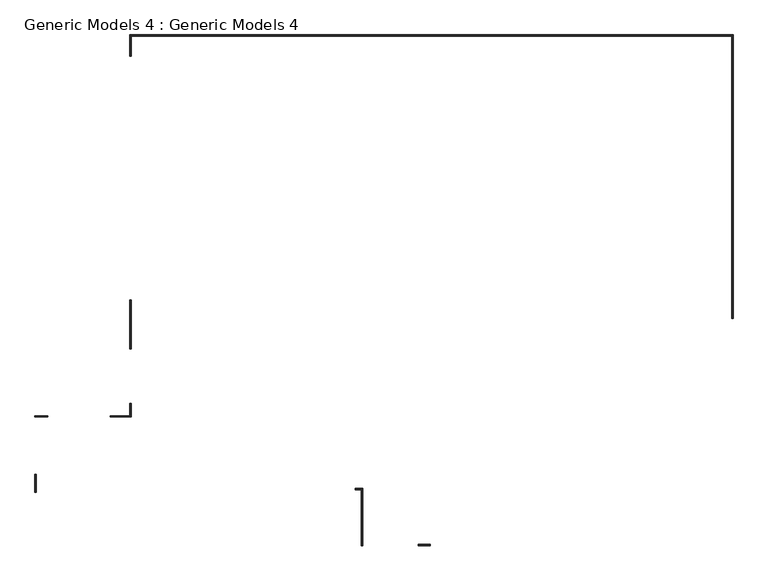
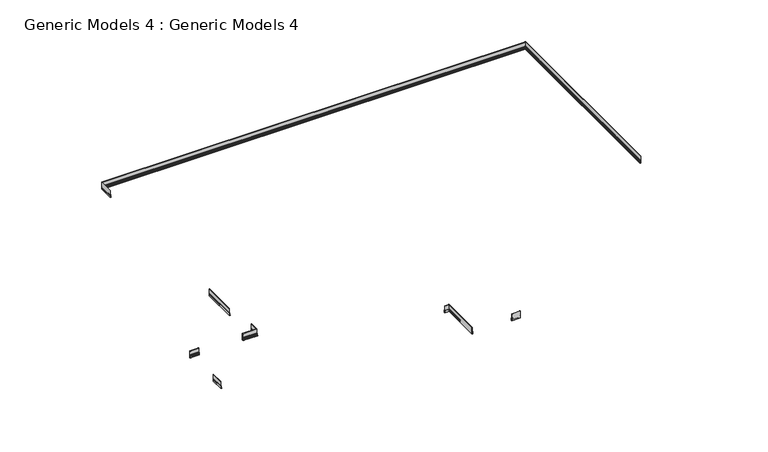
"""IFC4 building model written with IfcOpenShell, lengths in millimetres: proxy geometry, Generic Models 4 : Generic Models 4."""

from ifc_helpers import new_model, si_unit, point, frame, frame_2d, origin, place, context, project, spatial, polyline, circle_curve, ellipse_curve, trimmed, segment, composite_curve, outline, extrude, source, transform, mapped, element, save
from ifc_brep_helpers import plane_surface, cylinder_surface, revolved_surface, advanced_brep


def generic_models_4_generic_models_4_03122b29(model_context):
    return source(origin(), model_context, "Body", "SolidModel", [
        advanced_brep(
        [(-6474.8250642, 4649.3293876, 0.0), (-6474.8250642, 4649.3293876, -150.0), (-6459.8250642, 4649.3293876, -150.0), (-6459.8250642, 4649.3293876, -142.0576757), (-6459.8250642, 4649.3293876, -133.125), (-6459.8250642, 4649.3293876, -125.1826757), (-6459.8250642, 4649.3293876, -111.5846818), (-6459.8250642, 4649.3293876, -103.6423575), (-6459.8250642, 4649.3293876, -95.0), (-6464.8250642, 4649.3293876, -95.0), (-6469.8250642, 4649.3293876, -90.0), (-6469.8250642, 4649.3293876, -7.1706867), (2263.8919816, 841.2824486, 0.0), (2258.8919816, 841.2824486, -7.1706867), (2258.8919816, 841.2824486, -90.0), (2253.8919816, 841.2824486, -95.0), (2248.8919816, 841.2824486, -95.0), (2248.8919816, 841.2824486, -103.6423575), (2248.8919816, 841.2824486, -111.5846818), (2248.8919816, 841.2824486, -125.1826757), (2248.8919816, 841.2824486, -133.125), (2248.8919816, 841.2824486, -142.0576757), (2248.8919816, 841.2824486, -150.0), (2263.8919816, 841.2824486, -150.0), (2263.8919816, 4955.5879527, -150.0), (2263.8919816, 4955.5879527, 0.0), (2248.8919816, 4940.5879527, -142.0576757), (2248.8919816, 4940.5879527, -150.0), (2248.8919816, 4940.5879527, -133.125), (2248.8919816, 4940.5879527, -125.1826757), (2248.8919816, 4940.5879527, -111.5846818), (2248.8919816, 4940.5879527, -103.6423575), (2248.8919816, 4940.5879527, -95.0), (2258.8919816, 4950.5879527, -90.0), (2253.8919816, 4945.5879527, -95.0), (2258.8919816, 4950.5879527, -7.1706867), (-6474.8250642, 4955.5879527, 0.0), (-6474.8250642, 4955.5879527, -150.0), (-6459.8250642, 4940.5879527, -150.0), (-6459.8250642, 4940.5879527, -142.0576757), (-6459.8250642, 4940.5879527, -133.125), (-6459.8250642, 4940.5879527, -125.1826757), (-6459.8250642, 4940.5879527, -111.5846818), (-6459.8250642, 4940.5879527, -103.6423575), (-6459.8250642, 4940.5879527, -95.0), (-6464.8250642, 4945.5879527, -95.0), (-6469.8250642, 4950.5879527, -90.0), (-6469.8250642, 4950.5879527, -7.1706867)],
        [
            (0, 1),
            (1, 2),
            (2, 3, circle_curve(frame((-6459.8250642, 4649.3293876, -146.0288379), z_axis=(0.0, -1.0, 0.0), x_axis=(1.0, 0.0, 0.0)), 3.9711621)),
            (3, 4),
            (4, 5, circle_curve(frame((-6459.8250642, 4649.3293876, -129.1538379), z_axis=(0.0, 1.0, 0.0), x_axis=(-1.0, 0.0, 0.0)), 3.9711621)),
            (5, 6),
            (6, 7, circle_curve(frame((-6459.8250642, 4649.3293876, -107.6135197), z_axis=(0.0, 1.0, 0.0), x_axis=(-1.0, 0.0, 0.0)), 3.9711621)),
            (7, 8),
            (8, 9),
            (9, 10, circle_curve(frame((-6464.8250642, 4649.3293876, -90.0), z_axis=(0.0, 1.0, 0.0), x_axis=(1.0, 0.0, 0.0)), 5.0)),
            (10, 11),
            (11, 0, circle_curve(frame((-6477.4669391, 4649.3293876, -7.1706867), z_axis=(0.0, -1.0, 0.0), x_axis=(1.0, 0.0, 0.0)), 7.6418748)),
            (12, 13, circle_curve(frame((2266.5338564, 841.2824486, -7.1706867), z_axis=(0.0, -1.0, 0.0), x_axis=(-1.0, 0.0, 0.0)), 7.6418748)),
            (13, 14),
            (14, 15, circle_curve(frame((2253.8919816, 841.2824486, -90.0), z_axis=(0.0, 1.0, 0.0), x_axis=(-1.0, 0.0, 0.0)), 5.0)),
            (15, 16),
            (16, 17),
            (17, 18, circle_curve(frame((2248.8919816, 841.2824486, -107.6135197), z_axis=(0.0, 1.0, 0.0), x_axis=(1.0, 0.0, 0.0)), 3.9711621)),
            (18, 19),
            (19, 20, circle_curve(frame((2248.8919816, 841.2824486, -129.1538379), z_axis=(0.0, 1.0, 0.0), x_axis=(1.0, 0.0, 0.0)), 3.9711621)),
            (20, 21),
            (21, 22, circle_curve(frame((2248.8919816, 841.2824486, -146.0288379), z_axis=(0.0, -1.0, 0.0), x_axis=(-1.0, 0.0, 0.0)), 3.9711621)),
            (22, 23),
            (23, 12),
            (24, 25),
            (25, 12),
            (23, 24),
            (26, 27, ellipse_curve(frame((2248.8919816, 4940.5879527, -146.0288379), z_axis=(0.7071067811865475, -0.7071067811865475, 0.0), x_axis=(0.7071067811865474, 0.7071067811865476, 0.0)), 5.6160713, 3.9711621)),
            (27, 22),
            (21, 26),
            (28, 26),
            (20, 28),
            (29, 28, ellipse_curve(frame((2248.8919816, 4940.5879527, -129.1538379), z_axis=(-0.7071067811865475, 0.7071067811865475, 0.0), x_axis=(-0.7071067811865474, -0.7071067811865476, 0.0)), 5.6160713, 3.9711621)),
            (19, 29),
            (30, 29),
            (18, 30),
            (31, 30, ellipse_curve(frame((2248.8919816, 4940.5879527, -107.6135197), z_axis=(-0.7071067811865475, 0.7071067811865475, 0.0), x_axis=(-0.7071067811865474, -0.7071067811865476, 0.0)), 5.6160713, 3.9711621)),
            (17, 31),
            (32, 31),
            (16, 32),
            (33, 34, ellipse_curve(frame((2253.8919816, 4945.5879527, -90.0), z_axis=(-0.7071067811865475, 0.7071067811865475, 0.0), x_axis=(-0.7071067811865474, -0.7071067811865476, 0.0)), 7.0710678, 5.0)),
            (34, 15),
            (14, 33),
            (35, 33),
            (13, 35),
            (25, 35, ellipse_curve(frame((2266.5338564, 4958.2298276, -7.1706867), z_axis=(0.7071067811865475, -0.7071067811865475, 0.0), x_axis=(0.7071067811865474, 0.7071067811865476, 0.0)), 10.807243, 7.6418748)),
            (0, 36),
            (36, 37),
            (37, 1),
            (37, 24),
            (27, 38),
            (38, 2),
            (38, 39, ellipse_curve(frame((-6459.8250642, 4940.5879527, -146.0288379), z_axis=(-0.7071067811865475, -0.7071067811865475, 0.0), x_axis=(0.7071067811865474, -0.7071067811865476, 0.0)), 5.6160713, 3.9711621)),
            (39, 3),
            (39, 40),
            (40, 4),
            (40, 41, ellipse_curve(frame((-6459.8250642, 4940.5879527, -129.1538379), z_axis=(0.7071067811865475, 0.7071067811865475, 0.0), x_axis=(-0.7071067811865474, 0.7071067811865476, 0.0)), 5.6160713, 3.9711621)),
            (41, 5),
            (41, 42),
            (42, 6),
            (42, 43, ellipse_curve(frame((-6459.8250642, 4940.5879527, -107.6135197), z_axis=(0.7071067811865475, 0.7071067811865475, 0.0), x_axis=(-0.7071067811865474, 0.7071067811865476, 0.0)), 5.6160713, 3.9711621)),
            (43, 7),
            (43, 44),
            (44, 8),
            (44, 32),
            (34, 45),
            (45, 9),
            (45, 46, ellipse_curve(frame((-6464.8250642, 4945.5879527, -90.0), z_axis=(0.7071067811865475, 0.7071067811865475, 0.0), x_axis=(-0.7071067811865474, 0.7071067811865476, 0.0)), 7.0710678, 5.0)),
            (46, 10),
            (46, 47),
            (47, 11),
            (47, 36, ellipse_curve(frame((-6477.4669391, 4958.2298276, -7.1706867), z_axis=(-0.7071067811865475, -0.7071067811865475, 0.0), x_axis=(0.7071067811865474, -0.7071067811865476, 0.0)), 10.807243, 7.6418748)),
            (36, 25),
            (26, 39),
            (28, 40),
            (29, 41),
            (30, 42),
            (31, 43),
            (33, 46),
            (35, 47),
        ],
        [
            plane_surface(frame((-6474.8250642, 4649.3293876, -150.0), z_axis=(0.0, -1.0, 0.0), x_axis=(0.0, 0.0, -1.0))),
            plane_surface(frame((2263.8919816, 841.2824486, -150.0), z_axis=(0.0, -1.0, 0.0), x_axis=(0.0, 0.0, -1.0))),
            plane_surface(frame((2263.8919816, 4955.5879527, 0.0), z_axis=(1.0, 0.0, 0.0), x_axis=(0.0, -1.0, 0.0))),
            cylinder_surface(frame((2248.8919816, 4955.5879527, -146.0288379), z_axis=(0.0, 1.0, 0.0), x_axis=(-1.0, 0.0, 0.0)), 3.9711621),
            plane_surface(frame((2248.8919816, 4940.5879527, -142.0576757), z_axis=(-1.0, 0.0, 0.0), x_axis=(0.0, -1.0, 0.0))),
            revolved_surface(polyline([(2252.8631437, 841.2824486, -129.1538379), (2252.8631437, 4944.559114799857, -129.1538379)]), (2248.8919816, 4955.5879527, -129.1538379), (0.0, -1.0, 0.0)),
            plane_surface(frame((2248.8919816, 4940.5879527, -125.1826757), z_axis=(-1.0, 0.0, 0.0), x_axis=(0.0, -1.0, 0.0))),
            revolved_surface(polyline([(2252.8631437, 841.2824486, -107.6135197), (2252.8631437, 4944.559114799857, -107.6135197)]), (2248.8919816, 4955.5879527, -107.6135197), (0.0, -1.0, 0.0)),
            plane_surface(frame((2248.8919816, 4940.5879527, -103.6423575), z_axis=(-1.0, 0.0, 0.0), x_axis=(0.0, -1.0, 0.0))),
            revolved_surface(polyline([(2248.8919816, 841.2824486, -90.0), (2248.8919816, 4950.5879527, -90.0)]), (2253.8919816, 4955.5879527, -90.0), (0.0, -1.0, 0.0)),
            plane_surface(frame((2258.8919816, 4950.5879527, -90.0), z_axis=(-1.0, 0.0, 0.0), x_axis=(0.0, -1.0, 0.0))),
            cylinder_surface(frame((2266.5338564, 4955.5879527, -7.1706867), z_axis=(0.0, 1.0, 0.0), x_axis=(-1.0, 0.0, 0.0)), 7.6418748),
            plane_surface(frame((-6474.8250642, 4649.3293876, 0.0), z_axis=(-1.0, 0.0, 0.0), x_axis=(0.0, 1.0, 0.0))),
            plane_surface(frame((-6474.8250642, 4649.3293876, -150.0), z_axis=(0.0, 0.0, -1.0), x_axis=(0.0, 1.0, 0.0))),
            cylinder_surface(frame((-6459.8250642, 4649.3293876, -146.0288379), z_axis=(0.0, -1.0, 0.0), x_axis=(1.0, 0.0, 0.0)), 3.9711621),
            plane_surface(frame((-6459.8250642, 4649.3293876, -142.0576757), z_axis=(1.0, 0.0, 0.0), x_axis=(0.0, 1.0, 0.0))),
            revolved_surface(polyline([(-6463.7962263, 4944.559114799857, -129.1538379), (-6463.7962263, 4649.3293876, -129.1538379)]), (-6459.8250642, 4649.3293876, -129.1538379), (0.0, 1.0, 0.0)),
            plane_surface(frame((-6459.8250642, 4649.3293876, -125.1826757), z_axis=(1.0, 0.0, 0.0), x_axis=(0.0, 1.0, 0.0))),
            revolved_surface(polyline([(-6463.7962263, 4944.559114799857, -107.6135197), (-6463.7962263, 4649.3293876, -107.6135197)]), (-6459.8250642, 4649.3293876, -107.6135197), (0.0, 1.0, 0.0)),
            plane_surface(frame((-6459.8250642, 4649.3293876, -103.6423575), z_axis=(1.0, 0.0, 0.0), x_axis=(0.0, 1.0, 0.0))),
            plane_surface(frame((-6459.8250642, 4649.3293876, -95.0), z_axis=(0.0, 0.0, 1.0), x_axis=(0.0, 1.0, 0.0))),
            revolved_surface(polyline([(-6459.8250642, 4950.5879527, -90.0), (-6459.8250642, 4649.3293876, -90.0)]), (-6464.8250642, 4649.3293876, -90.0), (0.0, 1.0, 0.0)),
            plane_surface(frame((-6469.8250642, 4649.3293876, -90.0), z_axis=(1.0, 0.0, 0.0), x_axis=(0.0, 1.0, 0.0))),
            cylinder_surface(frame((-6477.4669391, 4649.3293876, -7.1706867), z_axis=(0.0, -1.0, 0.0), x_axis=(1.0, 0.0, 0.0)), 7.6418748),
            plane_surface(frame((-6474.8250642, 4955.5879527, 0.0), z_axis=(0.0, 1.0, 0.0), x_axis=(1.0, 0.0, 0.0))),
            cylinder_surface(frame((-6474.8250642, 4940.5879527, -146.0288379), z_axis=(-1.0, 0.0, 0.0), x_axis=(0.0, -1.0, 0.0)), 3.9711621),
            plane_surface(frame((-6459.8250642, 4940.5879527, -142.0576757), z_axis=(0.0, -1.0, 0.0), x_axis=(1.0, 0.0, 0.0))),
            revolved_surface(polyline([(2252.8631436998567, 4944.559114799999, -129.1538379), (-6463.796226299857, 4944.559114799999, -129.1538379)]), (-6474.8250642, 4940.5879527, -129.1538379), (1.0, 0.0, 0.0)),
            plane_surface(frame((-6459.8250642, 4940.5879527, -125.1826757), z_axis=(0.0, -1.0, 0.0), x_axis=(1.0, 0.0, 0.0))),
            revolved_surface(polyline([(2252.8631436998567, 4944.559114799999, -107.6135197), (-6463.796226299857, 4944.559114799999, -107.6135197)]), (-6474.8250642, 4940.5879527, -107.6135197), (1.0, 0.0, 0.0)),
            plane_surface(frame((-6459.8250642, 4940.5879527, -103.6423575), z_axis=(0.0, -1.0, 0.0), x_axis=(1.0, 0.0, 0.0))),
            revolved_surface(polyline([(2258.8919816, 4940.5879527, -90.0), (-6469.8250642, 4940.5879527, -90.0)]), (-6474.8250642, 4945.5879527, -90.0), (1.0, 0.0, 0.0)),
            plane_surface(frame((-6469.8250642, 4950.5879527, -90.0), z_axis=(0.0, -1.0, 0.0), x_axis=(1.0, 0.0, 0.0))),
            cylinder_surface(frame((-6474.8250642, 4958.2298276, -7.1706867), z_axis=(-1.0, 0.0, 0.0), x_axis=(0.0, -1.0, 0.0)), 7.6418748),
        ],
        [
            (0, [[1, 2, 3, 4, 5, 6, 7, 8, 9, 10, 11, 12]]),
            (1, [[13, 14, 15, 16, 17, 18, 19, 20, 21, 22, 23, 24]]),
            (2, [[25, 26, -24, 27]]),
            (3, [[28, 29, -22, 30]]),
            (4, [[31, -30, -21, 32]]),
            (5, [[33, -32, -20, 34]]),
            (6, [[35, -34, -19, 36]]),
            (7, [[37, -36, -18, 38]]),
            (8, [[39, -38, -17, 40]]),
            (9, [[41, 42, -15, 43]]),
            (10, [[44, -43, -14, 45]]),
            (11, [[46, -45, -13, -26]]),
            (12, [[-1, 47, 48, 49]]),
            (13, [[-2, -49, 50, -27, -23, -29, 51, 52]]),
            (14, [[-3, -52, 53, 54]]),
            (15, [[-4, -54, 55, 56]]),
            (16, [[-5, -56, 57, 58]]),
            (17, [[-6, -58, 59, 60]]),
            (18, [[-7, -60, 61, 62]]),
            (19, [[-8, -62, 63, 64]]),
            (20, [[-9, -64, 65, -40, -16, -42, 66, 67]]),
            (21, [[-10, -67, 68, 69]]),
            (22, [[-11, -69, 70, 71]]),
            (23, [[-12, -71, 72, -47]]),
            (24, [[-48, 73, -25, -50]]),
            (25, [[-53, -51, -28, 74]]),
            (26, [[-55, -74, -31, 75]]),
            (27, [[-57, -75, -33, 76]]),
            (28, [[-59, -76, -35, 77]]),
            (29, [[-61, -77, -37, 78]]),
            (30, [[-63, -78, -39, -65]]),
            (31, [[-68, -66, -41, 79]]),
            (32, [[-70, -79, -44, 80]]),
            (33, [[-72, -80, -46, -73]]),
        ],
    ),
        extrude(outline(composite_curve([segment(polyline([(150.0, -7848.5491004), (0.0, -7848.5491004), (0.0, -7833.5491004)]), True, "CONTINUOUS"), segment(trimmed(circle_curve(frame_2d((3.9711621, -7833.5491004)), 3.9711621), [point((0.0, -7833.5491004))], [point((7.9423243, -7833.5491004))], False, "CARTESIAN"), True, "CONTINUOUS"), segment(polyline([(7.9423243, -7833.5491004), (16.875, -7833.5491004)]), True, "CONTINUOUS"), segment(trimmed(circle_curve(frame_2d((20.8461621, -7833.5491004)), 3.9711621), [point((16.875, -7833.5491004))], [point((24.8173243, -7833.5491004))], True, "CARTESIAN"), True, "CONTINUOUS"), segment(polyline([(24.8173243, -7833.5491004), (38.4153182, -7833.5491004)]), True, "CONTINUOUS"), segment(trimmed(circle_curve(frame_2d((42.3864803, -7833.5491004)), 3.9711621), [point((38.4153182, -7833.5491004))], [point((46.3576425, -7833.5491004))], True, "CARTESIAN"), True, "CONTINUOUS"), segment(polyline([(46.3576425, -7833.5491004), (55.0, -7833.5491004), (55.0, -7838.5491004)]), True, "CONTINUOUS"), segment(trimmed(circle_curve(frame_2d((60.0, -7838.5491004)), 5.0), [point((55.0, -7838.5491004))], [point((60.0, -7843.5491004))], True, "CARTESIAN"), True, "CONTINUOUS"), segment(polyline([(60.0, -7843.5491004), (142.8293133, -7843.5491004)]), True, "CONTINUOUS"), segment(trimmed(circle_curve(frame_2d((142.8293133, -7851.1909752)), 7.6418748), [point((142.8293133, -7843.5491004))], [point((150.0, -7848.5491004))], False, "CARTESIAN"), True, "CONTINUOUS")], self_intersect=False)), frame((0.0, -1675.4749322, 0.0), z_axis=(0.0, 1.0, 0.0), x_axis=(0.0, 0.0, 1.0)), (0.0, 0.0, 1.0), 263.0759475),
        extrude(outline(composite_curve([segment(polyline([(-566.5989847, 150.0), (-566.5989847, 0.0), (-581.5989847, 0.0)]), True, "CONTINUOUS"), segment(trimmed(circle_curve(frame_2d((-581.5989847, 3.9711621)), 3.9711621), [point((-581.5989847, 0.0))], [point((-581.5989847, 7.9423243))], False, "CARTESIAN"), True, "CONTINUOUS"), segment(polyline([(-581.5989847, 7.9423243), (-581.5989847, 16.875)]), True, "CONTINUOUS"), segment(trimmed(circle_curve(frame_2d((-581.5989847, 20.8461621)), 3.9711621), [point((-581.5989847, 16.875))], [point((-581.5989847, 24.8173243))], True, "CARTESIAN"), True, "CONTINUOUS"), segment(polyline([(-581.5989847, 24.8173243), (-581.5989847, 38.4153182)]), True, "CONTINUOUS"), segment(trimmed(circle_curve(frame_2d((-581.5989847, 42.3864803)), 3.9711621), [point((-581.5989847, 38.4153182))], [point((-581.5989847, 46.3576425))], True, "CARTESIAN"), True, "CONTINUOUS"), segment(polyline([(-581.5989847, 46.3576425), (-581.5989847, 55.0), (-576.5989847, 55.0)]), True, "CONTINUOUS"), segment(trimmed(circle_curve(frame_2d((-576.5989847, 60.0)), 5.0), [point((-576.5989847, 55.0))], [point((-571.5989847, 60.0))], True, "CARTESIAN"), True, "CONTINUOUS"), segment(polyline([(-571.5989847, 60.0), (-571.5989847, 142.8293133)]), True, "CONTINUOUS"), segment(trimmed(circle_curve(frame_2d((-563.9571098, 142.8293133)), 7.6418748), [point((-571.5989847, 142.8293133))], [point((-566.5989847, 150.0))], False, "CARTESIAN"), True, "CONTINUOUS")], self_intersect=False)), frame((-7848.5491004, 0.0, 0.0), z_axis=(1.0, 0.0, 0.0), x_axis=(0.0, 1.0, 0.0)), (0.0, 0.0, 1.0), 187.9240362),
        advanced_brep(
        [(-6474.8250642, -390.1019684, 150.0), (-6469.8250642, -390.1019684, 142.8293133), (-6469.8250642, -390.1019684, 60.0), (-6464.8250642, -390.1019684, 55.0), (-6459.8250642, -390.1019684, 55.0), (-6459.8250642, -390.1019684, 46.3576425), (-6459.8250642, -390.1019684, 38.4153182), (-6459.8250642, -390.1019684, 24.8173243), (-6459.8250642, -390.1019684, 16.875), (-6459.8250642, -390.1019684, 7.9423243), (-6459.8250642, -390.1019684, 0.0), (-6474.8250642, -390.1019684, 0.0), (-6759.0250642, -566.5989847, 150.0), (-6759.0250642, -566.5989847, 0.0), (-6759.0250642, -581.5989847, 0.0), (-6759.0250642, -581.5989847, 7.9423243), (-6759.0250642, -581.5989847, 16.875), (-6759.0250642, -581.5989847, 24.8173243), (-6759.0250642, -581.5989847, 38.4153182), (-6759.0250642, -581.5989847, 46.3576425), (-6759.0250642, -581.5989847, 55.0), (-6759.0250642, -576.5989847, 55.0), (-6759.0250642, -571.5989847, 60.0), (-6759.0250642, -571.5989847, 142.8293133), (-6474.8250642, -566.5989847, 150.0), (-6469.8250642, -571.5989847, 142.8293133), (-6469.8250642, -571.5989847, 60.0), (-6464.8250642, -576.5989847, 55.0), (-6459.8250642, -581.5989847, 55.0), (-6459.8250642, -581.5989847, 46.3576425), (-6459.8250642, -581.5989847, 38.4153182), (-6459.8250642, -581.5989847, 24.8173243), (-6459.8250642, -581.5989847, 16.875), (-6459.8250642, -581.5989847, 7.9423243), (-6459.8250642, -581.5989847, 0.0), (-6474.8250642, -566.5989847, 0.0)],
        [
            (0, 1, circle_curve(frame((-6477.4669391, -390.1019684, 142.8293133), z_axis=(0.0, 1.0, 0.0), x_axis=(1.0, 0.0, 0.0)), 7.6418748)),
            (1, 2),
            (2, 3, circle_curve(frame((-6464.8250642, -390.1019684, 60.0), z_axis=(0.0, -1.0, 0.0), x_axis=(1.0, 0.0, 0.0)), 5.0)),
            (3, 4),
            (4, 5),
            (5, 6, circle_curve(frame((-6459.8250642, -390.1019684, 42.3864803), z_axis=(0.0, -1.0, 0.0), x_axis=(-1.0, 0.0, 0.0)), 3.9711621)),
            (6, 7),
            (7, 8, circle_curve(frame((-6459.8250642, -390.1019684, 20.8461621), z_axis=(0.0, -1.0, 0.0), x_axis=(-1.0, 0.0, 0.0)), 3.9711621)),
            (8, 9),
            (9, 10, circle_curve(frame((-6459.8250642, -390.1019684, 3.9711621), z_axis=(0.0, 1.0, 0.0), x_axis=(1.0, 0.0, 0.0)), 3.9711621)),
            (10, 11),
            (11, 0),
            (12, 13),
            (13, 14),
            (14, 15, circle_curve(frame((-6759.0250642, -581.5989847, 3.9711621), z_axis=(-1.0, 0.0, 0.0), x_axis=(0.0, -1.0, 0.0)), 3.9711621)),
            (15, 16),
            (16, 17, circle_curve(frame((-6759.0250642, -581.5989847, 20.8461621), z_axis=(1.0, 0.0, 0.0), x_axis=(0.0, 1.0, 0.0)), 3.9711621)),
            (17, 18),
            (18, 19, circle_curve(frame((-6759.0250642, -581.5989847, 42.3864803), z_axis=(1.0, 0.0, 0.0), x_axis=(0.0, 1.0, 0.0)), 3.9711621)),
            (19, 20),
            (20, 21),
            (21, 22, circle_curve(frame((-6759.0250642, -576.5989847, 60.0), z_axis=(1.0, 0.0, 0.0), x_axis=(0.0, -1.0, 0.0)), 5.0)),
            (22, 23),
            (23, 12, circle_curve(frame((-6759.0250642, -563.9571098, 142.8293133), z_axis=(-1.0, 0.0, 0.0), x_axis=(0.0, -1.0, 0.0)), 7.6418748)),
            (0, 24),
            (24, 25, ellipse_curve(frame((-6477.4669391, -563.9571098, 142.8293133), z_axis=(0.7071067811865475, 0.7071067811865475, 0.0), x_axis=(-0.7071067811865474, 0.7071067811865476, 0.0)), 10.807243, 7.6418748)),
            (25, 1),
            (25, 26),
            (26, 2),
            (26, 27, ellipse_curve(frame((-6464.8250642, -576.5989847, 60.0), z_axis=(-0.7071067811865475, -0.7071067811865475, 0.0), x_axis=(0.7071067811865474, -0.7071067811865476, 0.0)), 7.0710678, 5.0)),
            (27, 3),
            (27, 21),
            (20, 28),
            (28, 4),
            (28, 29),
            (29, 5),
            (29, 30, ellipse_curve(frame((-6459.8250642, -581.5989847, 42.3864803), z_axis=(-0.7071067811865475, -0.7071067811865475, 0.0), x_axis=(0.7071067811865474, -0.7071067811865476, 0.0)), 5.6160713, 3.9711621)),
            (30, 6),
            (30, 31),
            (31, 7),
            (31, 32, ellipse_curve(frame((-6459.8250642, -581.5989847, 20.8461621), z_axis=(-0.7071067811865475, -0.7071067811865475, 0.0), x_axis=(0.7071067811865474, -0.7071067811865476, 0.0)), 5.6160713, 3.9711621)),
            (32, 8),
            (32, 33),
            (33, 9),
            (33, 34, ellipse_curve(frame((-6459.8250642, -581.5989847, 3.9711621), z_axis=(0.7071067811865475, 0.7071067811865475, 0.0), x_axis=(-0.7071067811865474, 0.7071067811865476, 0.0)), 5.6160713, 3.9711621)),
            (34, 10),
            (34, 14),
            (13, 35),
            (35, 11),
            (35, 24),
            (24, 12),
            (23, 25),
            (22, 26),
            (19, 29),
            (18, 30),
            (17, 31),
            (16, 32),
            (15, 33),
        ],
        [
            plane_surface(frame((-6474.8250642, -390.1019684, 0.0), z_axis=(0.0, 1.0, 0.0), x_axis=(0.0, 0.0, -1.0))),
            plane_surface(frame((-6759.0250642, -566.5989847, 0.0), z_axis=(-1.0, 0.0, 0.0), x_axis=(0.0, 0.0, -1.0))),
            cylinder_surface(frame((-6477.4669391, -390.1019684, 142.8293133), z_axis=(0.0, 1.0, 0.0), x_axis=(1.0, 0.0, 0.0)), 7.6418748),
            plane_surface(frame((-6469.8250642, -390.1019684, 142.8293133), z_axis=(1.0, 0.0, 0.0), x_axis=(0.0, -1.0, 0.0))),
            revolved_surface(polyline([(-6459.8250642, -581.5989846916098, 60.0), (-6459.8250642, -390.1019684, 60.0)]), (-6464.8250642, -390.1019684, 60.0), (0.0, -1.0, 0.0)),
            plane_surface(frame((-6464.8250642, -390.1019684, 55.0), z_axis=(0.0, 0.0, 1.0), x_axis=(0.0, -1.0, 0.0))),
            plane_surface(frame((-6459.8250642, -390.1019684, 55.0), z_axis=(1.0, 0.0, 0.0), x_axis=(0.0, -1.0, 0.0))),
            revolved_surface(polyline([(-6463.7962263, -585.5701467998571, 42.3864803), (-6463.7962263, -390.1019684, 42.3864803)]), (-6459.8250642, -390.1019684, 42.3864803), (0.0, -1.0, 0.0)),
            plane_surface(frame((-6459.8250642, -390.1019684, 38.4153182), z_axis=(1.0, 0.0, 0.0), x_axis=(0.0, -1.0, 0.0))),
            revolved_surface(polyline([(-6463.7962263, -585.5701467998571, 20.8461621), (-6463.7962263, -390.1019684, 20.8461621)]), (-6459.8250642, -390.1019684, 20.8461621), (0.0, -1.0, 0.0)),
            plane_surface(frame((-6459.8250642, -390.1019684, 16.875), z_axis=(1.0, 0.0, 0.0), x_axis=(0.0, -1.0, 0.0))),
            cylinder_surface(frame((-6459.8250642, -390.1019684, 3.9711621), z_axis=(0.0, 1.0, 0.0), x_axis=(1.0, 0.0, 0.0)), 3.9711621),
            plane_surface(frame((-6459.8250642, -390.1019684, 0.0), z_axis=(0.0, 0.0, -1.0), x_axis=(0.0, -1.0, 0.0))),
            plane_surface(frame((-6474.8250642, -390.1019684, 0.0), z_axis=(-1.0, 0.0, 0.0), x_axis=(0.0, -1.0, 0.0))),
            cylinder_surface(frame((-6474.8250642, -563.9571098, 142.8293133), z_axis=(1.0, 0.0, 0.0), x_axis=(0.0, -1.0, 0.0)), 7.6418748),
            plane_surface(frame((-6469.8250642, -571.5989847, 142.8293133), z_axis=(0.0, -1.0, 0.0), x_axis=(-1.0, 0.0, 0.0))),
            revolved_surface(polyline([(-6759.0250642, -581.5989847, 60.0), (-6459.82506420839, -581.5989847, 60.0)]), (-6474.8250642, -576.5989847, 60.0), (-1.0, 0.0, 0.0)),
            plane_surface(frame((-6459.8250642, -581.5989847, 55.0), z_axis=(0.0, -1.0, 0.0), x_axis=(-1.0, 0.0, 0.0))),
            revolved_surface(polyline([(-6759.0250642, -577.6278226, 42.3864803), (-6455.853902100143, -577.6278226, 42.3864803)]), (-6474.8250642, -581.5989847, 42.3864803), (-1.0, 0.0, 0.0)),
            plane_surface(frame((-6459.8250642, -581.5989847, 38.4153182), z_axis=(0.0, -1.0, 0.0), x_axis=(-1.0, 0.0, 0.0))),
            revolved_surface(polyline([(-6759.0250642, -577.6278226, 20.8461621), (-6455.853902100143, -577.6278226, 20.8461621)]), (-6474.8250642, -581.5989847, 20.8461621), (-1.0, 0.0, 0.0)),
            plane_surface(frame((-6459.8250642, -581.5989847, 16.875), z_axis=(0.0, -1.0, 0.0), x_axis=(-1.0, 0.0, 0.0))),
            cylinder_surface(frame((-6474.8250642, -581.5989847, 3.9711621), z_axis=(1.0, 0.0, 0.0), x_axis=(0.0, -1.0, 0.0)), 3.9711621),
            plane_surface(frame((-6474.8250642, -566.5989847, 0.0), z_axis=(0.0, 1.0, 0.0), x_axis=(-1.0, 0.0, 0.0))),
        ],
        [
            (0, [[1, 2, 3, 4, 5, 6, 7, 8, 9, 10, 11, 12]]),
            (1, [[13, 14, 15, 16, 17, 18, 19, 20, 21, 22, 23, 24]]),
            (2, [[-1, 25, 26, 27]]),
            (3, [[-2, -27, 28, 29]]),
            (4, [[-3, -29, 30, 31]]),
            (5, [[-4, -31, 32, -21, 33, 34]]),
            (6, [[-5, -34, 35, 36]]),
            (7, [[-6, -36, 37, 38]]),
            (8, [[-7, -38, 39, 40]]),
            (9, [[-8, -40, 41, 42]]),
            (10, [[-9, -42, 43, 44]]),
            (11, [[-10, -44, 45, 46]]),
            (12, [[-11, -46, 47, -14, 48, 49]]),
            (13, [[-12, -49, 50, -25]]),
            (14, [[-26, 51, -24, 52]]),
            (15, [[-28, -52, -23, 53]]),
            (16, [[-30, -53, -22, -32]]),
            (17, [[-35, -33, -20, 54]]),
            (18, [[-37, -54, -19, 55]]),
            (19, [[-39, -55, -18, 56]]),
            (20, [[-41, -56, -17, 57]]),
            (21, [[-43, -57, -16, 58]]),
            (22, [[-45, -58, -15, -47]]),
            (23, [[-50, -48, -13, -51]]),
        ],
    ),
        extrude(outline(composite_curve([segment(polyline([(0.0, -6474.8250642), (-150.0, -6474.8250642), (-150.0, -6459.8250642)]), True, "CONTINUOUS"), segment(trimmed(circle_curve(frame_2d((-146.0288379, -6459.8250642)), 3.9711621), [point((-150.0, -6459.8250642))], [point((-142.0576757, -6459.8250642))], False, "CARTESIAN"), True, "CONTINUOUS"), segment(polyline([(-142.0576757, -6459.8250642), (-133.125, -6459.8250642)]), True, "CONTINUOUS"), segment(trimmed(circle_curve(frame_2d((-129.1538379, -6459.8250642)), 3.9711621), [point((-133.125, -6459.8250642))], [point((-125.1826757, -6459.8250642))], True, "CARTESIAN"), True, "CONTINUOUS"), segment(polyline([(-125.1826757, -6459.8250642), (-111.5846818, -6459.8250642)]), True, "CONTINUOUS"), segment(trimmed(circle_curve(frame_2d((-107.6135197, -6459.8250642)), 3.9711621), [point((-111.5846818, -6459.8250642))], [point((-103.6423575, -6459.8250642))], True, "CARTESIAN"), True, "CONTINUOUS"), segment(polyline([(-103.6423575, -6459.8250642), (-95.0, -6459.8250642), (-95.0, -6464.8250642)]), True, "CONTINUOUS"), segment(trimmed(circle_curve(frame_2d((-90.0, -6464.8250642)), 5.0), [point((-95.0, -6464.8250642))], [point((-90.0, -6469.8250642))], True, "CARTESIAN"), True, "CONTINUOUS"), segment(polyline([(-90.0, -6469.8250642), (-7.1706867, -6469.8250642)]), True, "CONTINUOUS"), segment(trimmed(circle_curve(frame_2d((-7.1706867, -6477.4669391)), 7.6418748), [point((-7.1706867, -6469.8250642))], [point((0.0, -6474.8250642))], False, "CARTESIAN"), True, "CONTINUOUS")], self_intersect=False)), frame((0.0, 400.9631518, 0.0), z_axis=(0.0, 1.0, 0.0), x_axis=(0.0, 0.0, 1.0)), (0.0, 0.0, 1.0), 708.3662358),
        extrude(outline(composite_curve([segment(trimmed(circle_curve(frame_2d((-2451.6890649, 142.8293133)), 7.6418748), [point((-2449.0471901, 150.0))], [point((-2444.0471901, 142.8293133))], False, "CARTESIAN"), True, "CONTINUOUS"), segment(polyline([(-2444.0471901, 142.8293133), (-2444.0471901, 60.0)]), True, "CONTINUOUS"), segment(trimmed(circle_curve(frame_2d((-2439.0471901, 60.0)), 5.0), [point((-2444.0471901, 60.0))], [point((-2439.0471901, 55.0))], True, "CARTESIAN"), True, "CONTINUOUS"), segment(polyline([(-2439.0471901, 55.0), (-2434.0471901, 55.0), (-2434.0471901, 46.3576425)]), True, "CONTINUOUS"), segment(trimmed(circle_curve(frame_2d((-2434.0471901, 42.3864803)), 3.9711621), [point((-2434.0471901, 46.3576425))], [point((-2434.0471901, 38.4153182))], True, "CARTESIAN"), True, "CONTINUOUS"), segment(polyline([(-2434.0471901, 38.4153182), (-2434.0471901, 24.8173243)]), True, "CONTINUOUS"), segment(trimmed(circle_curve(frame_2d((-2434.0471901, 20.8461621)), 3.9711621), [point((-2434.0471901, 24.8173243))], [point((-2434.0471901, 16.875))], True, "CARTESIAN"), True, "CONTINUOUS"), segment(polyline([(-2434.0471901, 16.875), (-2434.0471901, 7.9423243)]), True, "CONTINUOUS"), segment(trimmed(circle_curve(frame_2d((-2434.0471901, 3.9711621)), 3.9711621), [point((-2434.0471901, 7.9423243))], [point((-2434.0471901, 0.0))], False, "CARTESIAN"), True, "CONTINUOUS"), segment(polyline([(-2434.0471901, 0.0), (-2449.0471901, 0.0), (-2449.0471901, 150.0)]), True, "CONTINUOUS")], self_intersect=False)), frame((-2298.9899912, 0.0, 0.0), z_axis=(1.0, 0.0, 0.0), x_axis=(0.0, 1.0, 0.0)), (0.0, 0.0, 1.0), 180.0),
        advanced_brep(
        [(-3119.7531345, -2449.0471901, 150.0), (-3119.7531345, -2449.0471901, 0.0), (-3104.7531345, -2449.0471901, 0.0), (-3104.7531345, -2449.0471901, 7.9423243), (-3104.7531345, -2449.0471901, 16.875), (-3104.7531345, -2449.0471901, 24.8173243), (-3104.7531345, -2449.0471901, 38.4153182), (-3104.7531345, -2449.0471901, 46.3576425), (-3104.7531345, -2449.0471901, 55.0), (-3109.7531345, -2449.0471901, 55.0), (-3114.7531345, -2449.0471901, 60.0), (-3114.7531345, -2449.0471901, 142.8293133), (-3209.7531345, -1640.348587, 150.0), (-3209.7531345, -1635.348587, 142.8293133), (-3209.7531345, -1635.348587, 60.0), (-3209.7531345, -1630.348587, 55.0), (-3209.7531345, -1625.348587, 55.0), (-3209.7531345, -1625.348587, 46.3576425), (-3209.7531345, -1625.348587, 38.4153182), (-3209.7531345, -1625.348587, 24.8173243), (-3209.7531345, -1625.348587, 16.875), (-3209.7531345, -1625.348587, 7.9423243), (-3209.7531345, -1625.348587, 0.0), (-3209.7531345, -1640.348587, 0.0), (-3119.7531345, -1640.348587, 150.0), (-3119.7531345, -1640.348587, 0.0), (-3104.7531345, -1625.348587, 0.0), (-3104.7531345, -1625.348587, 7.9423243), (-3104.7531345, -1625.348587, 16.875), (-3104.7531345, -1625.348587, 24.8173243), (-3104.7531345, -1625.348587, 38.4153182), (-3104.7531345, -1625.348587, 46.3576425), (-3104.7531345, -1625.348587, 55.0), (-3109.7531345, -1630.348587, 55.0), (-3114.7531345, -1635.348587, 60.0), (-3114.7531345, -1635.348587, 142.8293133)],
        [
            (0, 1),
            (1, 2),
            (2, 3, circle_curve(frame((-3104.7531345, -2449.0471901, 3.9711621), z_axis=(0.0, -1.0, 0.0), x_axis=(1.0, 0.0, 0.0)), 3.9711621)),
            (3, 4),
            (4, 5, circle_curve(frame((-3104.7531345, -2449.0471901, 20.8461621), z_axis=(0.0, 1.0, 0.0), x_axis=(-1.0, 0.0, 0.0)), 3.9711621)),
            (5, 6),
            (6, 7, circle_curve(frame((-3104.7531345, -2449.0471901, 42.3864803), z_axis=(0.0, 1.0, 0.0), x_axis=(-1.0, 0.0, 0.0)), 3.9711621)),
            (7, 8),
            (8, 9),
            (9, 10, circle_curve(frame((-3109.7531345, -2449.0471901, 60.0), z_axis=(0.0, 1.0, 0.0), x_axis=(1.0, 0.0, 0.0)), 5.0)),
            (10, 11),
            (11, 0, circle_curve(frame((-3122.3950094, -2449.0471901, 142.8293133), z_axis=(0.0, -1.0, 0.0), x_axis=(1.0, 0.0, 0.0)), 7.6418748)),
            (12, 13, circle_curve(frame((-3209.7531345, -1642.9904618, 142.8293133), z_axis=(-1.0, 0.0, 0.0), x_axis=(0.0, 1.0, 0.0)), 7.6418748)),
            (13, 14),
            (14, 15, circle_curve(frame((-3209.7531345, -1630.348587, 60.0), z_axis=(1.0, 0.0, 0.0), x_axis=(0.0, 1.0, 0.0)), 5.0)),
            (15, 16),
            (16, 17),
            (17, 18, circle_curve(frame((-3209.7531345, -1625.348587, 42.3864803), z_axis=(1.0, 0.0, 0.0), x_axis=(0.0, -1.0, 0.0)), 3.9711621)),
            (18, 19),
            (19, 20, circle_curve(frame((-3209.7531345, -1625.348587, 20.8461621), z_axis=(1.0, 0.0, 0.0), x_axis=(0.0, -1.0, 0.0)), 3.9711621)),
            (20, 21),
            (21, 22, circle_curve(frame((-3209.7531345, -1625.348587, 3.9711621), z_axis=(-1.0, 0.0, 0.0), x_axis=(0.0, 1.0, 0.0)), 3.9711621)),
            (22, 23),
            (23, 12),
            (0, 24),
            (24, 25),
            (25, 1),
            (25, 23),
            (22, 26),
            (26, 2),
            (26, 27, ellipse_curve(frame((-3104.7531345, -1625.348587, 3.9711621), z_axis=(0.7071067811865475, -0.7071067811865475, 0.0), x_axis=(-0.7071067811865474, -0.7071067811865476, 0.0)), 5.6160713, 3.9711621)),
            (27, 3),
            (27, 28),
            (28, 4),
            (28, 29, ellipse_curve(frame((-3104.7531345, -1625.348587, 20.8461621), z_axis=(-0.7071067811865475, 0.7071067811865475, 0.0), x_axis=(0.7071067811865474, 0.7071067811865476, 0.0)), 5.6160713, 3.9711621)),
            (29, 5),
            (29, 30),
            (30, 6),
            (30, 31, ellipse_curve(frame((-3104.7531345, -1625.348587, 42.3864803), z_axis=(-0.7071067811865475, 0.7071067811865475, 0.0), x_axis=(0.7071067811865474, 0.7071067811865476, 0.0)), 5.6160713, 3.9711621)),
            (31, 7),
            (31, 32),
            (32, 8),
            (32, 16),
            (15, 33),
            (33, 9),
            (33, 34, ellipse_curve(frame((-3109.7531345, -1630.348587, 60.0), z_axis=(-0.7071067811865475, 0.7071067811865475, 0.0), x_axis=(0.7071067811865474, 0.7071067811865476, 0.0)), 7.0710678, 5.0)),
            (34, 10),
            (34, 35),
            (35, 11),
            (35, 24, ellipse_curve(frame((-3122.3950094, -1642.9904618, 142.8293133), z_axis=(0.7071067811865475, -0.7071067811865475, 0.0), x_axis=(-0.7071067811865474, -0.7071067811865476, 0.0)), 10.807243, 7.6418748)),
            (24, 12),
            (21, 27),
            (20, 28),
            (19, 29),
            (18, 30),
            (17, 31),
            (14, 34),
            (13, 35),
        ],
        [
            plane_surface(frame((-3119.7531345, -2449.0471901, 0.0), z_axis=(0.0, -1.0, 0.0), x_axis=(0.0, 0.0, -1.0))),
            plane_surface(frame((-3209.7531345, -1640.348587, 0.0), z_axis=(-1.0, 0.0, 0.0), x_axis=(0.0, 0.0, -1.0))),
            plane_surface(frame((-3119.7531345, -2449.0471901, 150.0), z_axis=(-1.0, 0.0, 0.0), x_axis=(0.0, 1.0, 0.0))),
            plane_surface(frame((-3119.7531345, -2449.0471901, 0.0), z_axis=(0.0, 0.0, -1.0), x_axis=(0.0, 1.0, 0.0))),
            cylinder_surface(frame((-3104.7531345, -2449.0471901, 3.9711621), z_axis=(0.0, -1.0, 0.0), x_axis=(1.0, 0.0, 0.0)), 3.9711621),
            plane_surface(frame((-3104.7531345, -2449.0471901, 7.9423243), z_axis=(1.0, 0.0, 0.0), x_axis=(0.0, 1.0, 0.0))),
            revolved_surface(polyline([(-3108.7242966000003, -1621.3774249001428, 20.8461621), (-3108.7242966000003, -2449.0471901, 20.8461621)]), (-3104.7531345, -2449.0471901, 20.8461621), (0.0, 1.0, 0.0)),
            plane_surface(frame((-3104.7531345, -2449.0471901, 24.8173243), z_axis=(1.0, 0.0, 0.0), x_axis=(0.0, 1.0, 0.0))),
            revolved_surface(polyline([(-3108.7242966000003, -1621.3774249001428, 42.3864803), (-3108.7242966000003, -2449.0471901, 42.3864803)]), (-3104.7531345, -2449.0471901, 42.3864803), (0.0, 1.0, 0.0)),
            plane_surface(frame((-3104.7531345, -2449.0471901, 46.3576425), z_axis=(1.0, 0.0, 0.0), x_axis=(0.0, 1.0, 0.0))),
            plane_surface(frame((-3104.7531345, -2449.0471901, 55.0), z_axis=(0.0, 0.0, 1.0), x_axis=(0.0, 1.0, 0.0))),
            revolved_surface(polyline([(-3104.7531345, -1625.34858700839, 60.0), (-3104.7531345, -2449.0471901, 60.0)]), (-3109.7531345, -2449.0471901, 60.0), (0.0, 1.0, 0.0)),
            plane_surface(frame((-3114.7531345, -2449.0471901, 60.0), z_axis=(1.0, 0.0, 0.0), x_axis=(0.0, 1.0, 0.0))),
            cylinder_surface(frame((-3122.3950094, -2449.0471901, 142.8293133), z_axis=(0.0, -1.0, 0.0), x_axis=(1.0, 0.0, 0.0)), 7.6418748),
            plane_surface(frame((-3119.7531345, -1640.348587, 150.0), z_axis=(0.0, -1.0, 0.0), x_axis=(-1.0, 0.0, 0.0))),
            cylinder_surface(frame((-3119.7531345, -1625.348587, 3.9711621), z_axis=(1.0, 0.0, 0.0), x_axis=(0.0, 1.0, 0.0)), 3.9711621),
            plane_surface(frame((-3104.7531345, -1625.348587, 7.9423243), z_axis=(0.0, 1.0, 0.0), x_axis=(-1.0, 0.0, 0.0))),
            revolved_surface(polyline([(-3209.7531345, -1629.3197490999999, 20.8461621), (-3100.781972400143, -1629.3197490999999, 20.8461621)]), (-3119.7531345, -1625.348587, 20.8461621), (-1.0, 0.0, 0.0)),
            plane_surface(frame((-3104.7531345, -1625.348587, 24.8173243), z_axis=(0.0, 1.0, 0.0), x_axis=(-1.0, 0.0, 0.0))),
            revolved_surface(polyline([(-3209.7531345, -1629.3197490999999, 42.3864803), (-3100.781972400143, -1629.3197490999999, 42.3864803)]), (-3119.7531345, -1625.348587, 42.3864803), (-1.0, 0.0, 0.0)),
            plane_surface(frame((-3104.7531345, -1625.348587, 46.3576425), z_axis=(0.0, 1.0, 0.0), x_axis=(-1.0, 0.0, 0.0))),
            revolved_surface(polyline([(-3209.7531345, -1625.348587, 60.0), (-3104.7531345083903, -1625.348587, 60.0)]), (-3119.7531345, -1630.348587, 60.0), (-1.0, 0.0, 0.0)),
            plane_surface(frame((-3114.7531345, -1635.348587, 60.0), z_axis=(0.0, 1.0, 0.0), x_axis=(-1.0, 0.0, 0.0))),
            cylinder_surface(frame((-3119.7531345, -1642.9904618, 142.8293133), z_axis=(1.0, 0.0, 0.0), x_axis=(0.0, 1.0, 0.0)), 7.6418748),
        ],
        [
            (0, [[1, 2, 3, 4, 5, 6, 7, 8, 9, 10, 11, 12]]),
            (1, [[13, 14, 15, 16, 17, 18, 19, 20, 21, 22, 23, 24]]),
            (2, [[-1, 25, 26, 27]]),
            (3, [[-2, -27, 28, -23, 29, 30]]),
            (4, [[-3, -30, 31, 32]]),
            (5, [[-4, -32, 33, 34]]),
            (6, [[-5, -34, 35, 36]]),
            (7, [[-6, -36, 37, 38]]),
            (8, [[-7, -38, 39, 40]]),
            (9, [[-8, -40, 41, 42]]),
            (10, [[-9, -42, 43, -16, 44, 45]]),
            (11, [[-10, -45, 46, 47]]),
            (12, [[-11, -47, 48, 49]]),
            (13, [[-12, -49, 50, -25]]),
            (14, [[-26, 51, -24, -28]]),
            (15, [[-31, -29, -22, 52]]),
            (16, [[-33, -52, -21, 53]]),
            (17, [[-35, -53, -20, 54]]),
            (18, [[-37, -54, -19, 55]]),
            (19, [[-39, -55, -18, 56]]),
            (20, [[-41, -56, -17, -43]]),
            (21, [[-46, -44, -15, 57]]),
            (22, [[-48, -57, -14, 58]]),
            (23, [[-50, -58, -13, -51]]),
        ],
    ),
    ])


if __name__ == "__main__":
    model = new_model("IFC4")
    model_context = context("Model", 3, world=origin())
    ifc_project = project(units=[si_unit("LENGTHUNIT", "METRE", prefix="MILLI")], contexts=[model_context])
    site = spatial("IfcSite", under=ifc_project)
    building = spatial("IfcBuilding", under=site)
    placement = place(None, origin())
    generic_models_4_generic_models_4_shape = generic_models_4_generic_models_4_03122b29(model_context)
    element("IfcBuildingElementProxy", 1, Name="Generic Models 4 : Generic Models 4", ObjectType="Generic Models 4 : Generic Models 4", at=placement, inside=building, context=model_context, shape_type="MappedRepresentation", body=[
        mapped(generic_models_4_generic_models_4_shape, transform((0.0, 0.0, 0.0), x_axis=(1.0, 0.0, 0.0), y_axis=(0.0, 1.0, 0.0), z_axis=(0.0, 0.0, 1.0))),
    ])
    save(model, "model.ifc")
